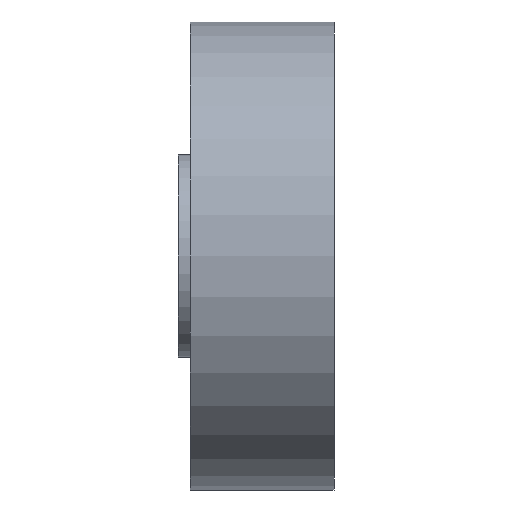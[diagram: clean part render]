
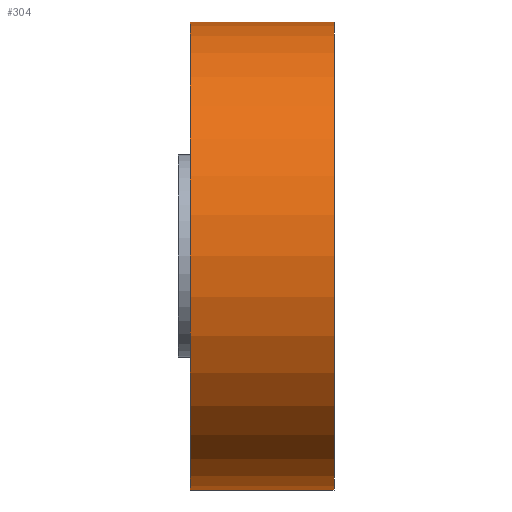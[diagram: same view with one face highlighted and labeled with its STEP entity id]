
A CAD part, left-side view. The second image highlights one B-rep face of the part: STEP entity #304.
In plain terms, the highlighted cylindrical face has radius 38.1 mm (diameter 76.2 mm), a partial arc.
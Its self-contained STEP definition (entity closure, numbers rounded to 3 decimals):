
#4 = CARTESIAN_POINT ( 'NONE',  ( 0., 0., 0. ) ) ;
#10 = CYLINDRICAL_SURFACE ( 'NONE', #390, 38.1 ) ;
#28 = CARTESIAN_POINT ( 'NONE',  ( 0., 23.4, 0. ) ) ;
#66 = CIRCLE ( 'NONE', #175, 38.1 ) ;
#105 = EDGE_CURVE ( 'NONE', #185, #219, #681, .T. ) ;
#107 = CARTESIAN_POINT ( 'NONE',  ( 0., 23.4, 38.1 ) ) ;
#126 = ORIENTED_EDGE ( 'NONE', *, *, #713, .F. ) ;
#175 = AXIS2_PLACEMENT_3D ( 'NONE', #247, #423, #501 ) ;
#185 = VERTEX_POINT ( 'NONE', #720 ) ;
#219 = VERTEX_POINT ( 'NONE', #280 ) ;
#228 = ORIENTED_EDGE ( 'NONE', *, *, #445, .F. ) ;
#247 = CARTESIAN_POINT ( 'NONE',  ( 0., 23.4, 0. ) ) ;
#280 = CARTESIAN_POINT ( 'NONE',  ( 0., 0., 38.1 ) ) ;
#283 = ORIENTED_EDGE ( 'NONE', *, *, #480, .T. ) ;
#304 = ADVANCED_FACE ( 'NONE', ( #541 ), #10, .T. ) ;
#343 = VECTOR ( 'NONE', #394, 1000. ) ;
#350 = CARTESIAN_POINT ( 'NONE',  ( 0., 23.4, -38.1 ) ) ;
#370 = DIRECTION ( 'NONE',  ( 0., -1., 0. ) ) ;
#390 = AXIS2_PLACEMENT_3D ( 'NONE', #28, #409, #471 ) ;
#394 = DIRECTION ( 'NONE',  ( 0., -1., 0. ) ) ;
#395 = DIRECTION ( 'NONE',  ( 0., 0., 1. ) ) ;
#409 = DIRECTION ( 'NONE',  ( 0., -1., 0. ) ) ;
#423 = DIRECTION ( 'NONE',  ( 0., 1., 0. ) ) ;
#445 = EDGE_CURVE ( 'NONE', #616, #823, #66, .T. ) ;
#471 = DIRECTION ( 'NONE',  ( 0., 0., -1. ) ) ;
#480 = EDGE_CURVE ( 'NONE', #616, #185, #517, .T. ) ;
#501 = DIRECTION ( 'NONE',  ( 0., 0., 1. ) ) ;
#517 = LINE ( 'NONE', #845, #343 ) ;
#541 = FACE_OUTER_BOUND ( 'NONE', #811, .T. ) ;
#616 = VERTEX_POINT ( 'NONE', #350 ) ;
#623 = LINE ( 'NONE', #762, #784 ) ;
#681 = CIRCLE ( 'NONE', #794, 38.1 ) ;
#713 = EDGE_CURVE ( 'NONE', #823, #219, #623, .T. ) ;
#720 = CARTESIAN_POINT ( 'NONE',  ( 0., 0., -38.1 ) ) ;
#762 = CARTESIAN_POINT ( 'NONE',  ( 0., 23.4, 38.1 ) ) ;
#784 = VECTOR ( 'NONE', #370, 1000. ) ;
#794 = AXIS2_PLACEMENT_3D ( 'NONE', #4, #851, #395 ) ;
#811 = EDGE_LOOP ( 'NONE', ( #126, #228, #283, #822 ) ) ;
#822 = ORIENTED_EDGE ( 'NONE', *, *, #105, .T. ) ;
#823 = VERTEX_POINT ( 'NONE', #107 ) ;
#845 = CARTESIAN_POINT ( 'NONE',  ( 0., 23.4, -38.1 ) ) ;
#851 = DIRECTION ( 'NONE',  ( 0., 1., 0. ) ) ;
